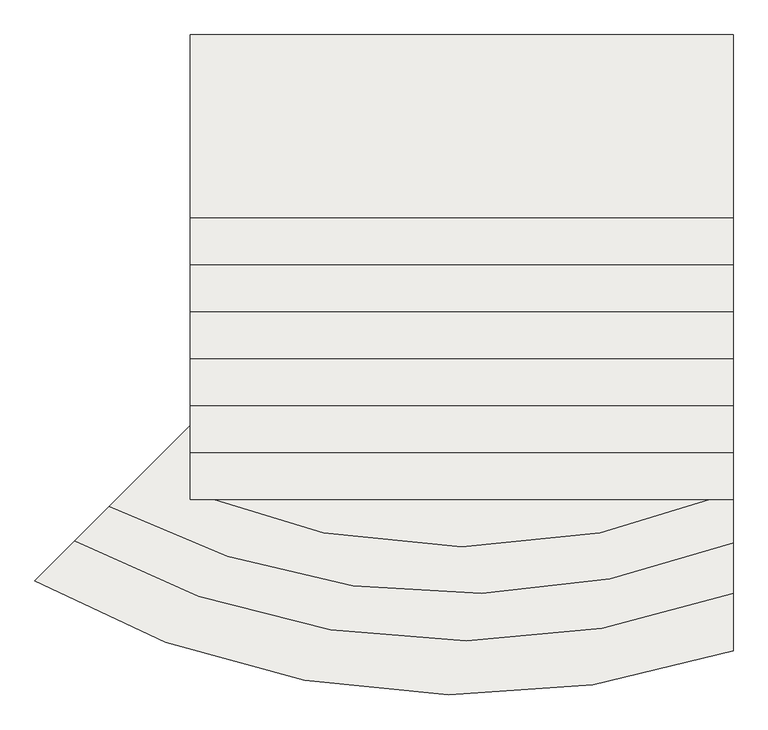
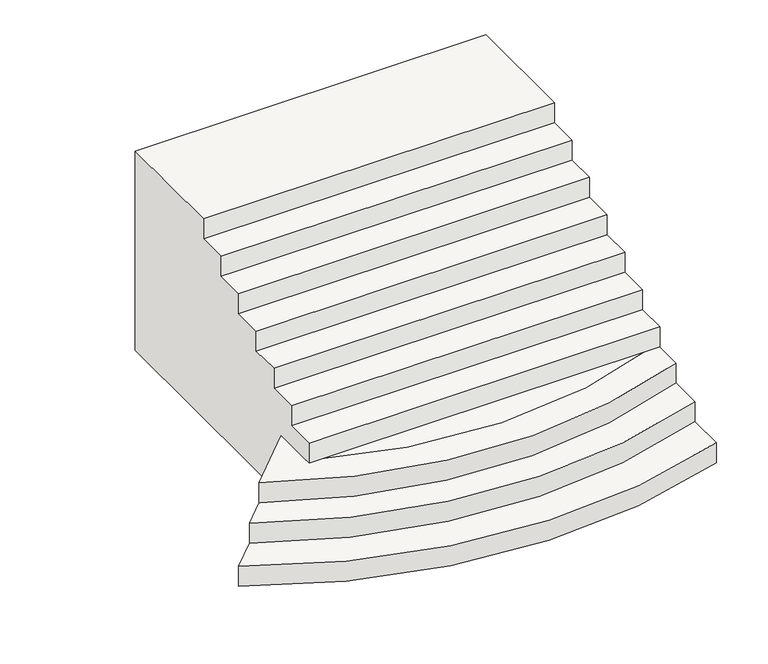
"""IFC4 building model written with IfcOpenShell, lengths in millimetres: slab geometry, ENT階段1 : ENT階段."""

from ifc_helpers import new_model, si_unit, point, frame, frame_2d, origin, place, context, project, spatial, polyline, circle_curve, trimmed, segment, composite_curve, outline, extrude, source, transform, mapped, element, save


def slab_74460c11(model_context):
    return source(origin(), model_context, "Body", "SweptSolid", [
        extrude(outline(composite_curve([segment(polyline([(9254.3805905, -8197.4608995), (9254.3805905, -8515.0913714)]), True, "CONTINUOUS"), segment(trimmed(circle_curve(frame_2d((7754.3805905, -4041.2964422)), 4718.5634539), [point((9254.3805905, -8515.0913714))], [point((5395.9418687, -8128.178856))], False, "CARTESIAN"), True, "CONTINUOUS"), segment(polyline([(5395.9418687, -8128.178856), (5616.1081236, -7908.0126011)]), True, "CONTINUOUS"), segment(trimmed(circle_curve(frame_2d((7754.3805905, -4041.2964422)), 4418.5634539), [point((5616.1081236, -7908.0126011))], [point((9254.3805905, -8197.4608995))], True, "CARTESIAN"), True, "CONTINUOUS")], self_intersect=False)), frame((0.0, 0.0, -800.0), z_axis=(0.0, 0.0, 1.0), x_axis=(1.0, 0.0, 0.0)), (0.0, 0.0, 1.0), 180.0),
        extrude(outline(composite_curve([segment(polyline([(9254.3805905, -7919.9108856), (9254.3805905, -8197.4608995)]), True, "CONTINUOUS"), segment(trimmed(circle_curve(frame_2d((7754.3805905, -4041.2964422)), 4418.5634539), [point((9254.3805905, -8197.4608995))], [point((5616.1081236, -7908.0126011))], False, "CARTESIAN"), True, "CONTINUOUS"), segment(polyline([(5616.1081236, -7908.0126011), (5807.9182491, -7716.2024755)]), True, "CONTINUOUS"), segment(trimmed(circle_curve(frame_2d((7754.3805905, -4041.2964422)), 4158.5634539), [point((5807.9182491, -7716.2024755))], [point((9254.3805905, -7919.9108856))], True, "CARTESIAN"), True, "CONTINUOUS")], self_intersect=False)), frame((0.0, 0.0, -620.0), z_axis=(0.0, 0.0, 1.0), x_axis=(1.0, 0.0, 0.0)), (0.0, 0.0, 1.0), 180.0),
        extrude(outline(composite_curve([segment(polyline([(9254.3805905, -7639.7401342), (9254.3805905, -7919.9108856)]), True, "CONTINUOUS"), segment(trimmed(circle_curve(frame_2d((7754.3805905, -4041.2964422)), 4158.5634539), [point((9254.3805905, -7919.9108856))], [point((5807.9182491, -7716.2024755))], False, "CARTESIAN"), True, "CONTINUOUS"), segment(polyline([(5807.9182491, -7716.2024755), (6254.3805905, -7269.7401342), (6254.3805905, -7639.7401342)]), True, "CONTINUOUS"), segment(trimmed(circle_curve(frame_2d((7754.3805905, -4041.2964422)), 3898.5634539), [point((6254.3805905, -7639.7401342))], [point((9254.3805905, -7639.7401342))], True, "CARTESIAN"), True, "CONTINUOUS")], self_intersect=False)), frame((0.0, 0.0, -620.0), z_axis=(0.0, 0.0, 1.0), x_axis=(1.0, 0.0, 0.0)), (0.0, 0.0, 1.0), 360.0),
        extrude(outline(composite_curve([segment(trimmed(circle_curve(frame_2d((7754.3805905, -4041.2964422)), 3898.5634539), [point((9254.3805905, -7639.7401342))], [point((6254.3805905, -7639.7401342))], False, "CARTESIAN"), True, "CONTINUOUS"), segment(polyline([(6254.3805905, -7639.7401342), (9254.3805905, -7639.7401342)]), True, "CONTINUOUS")], self_intersect=False)), frame((0.0, 0.0, -800.0), z_axis=(0.0, 0.0, 1.0), x_axis=(1.0, 0.0, 0.0)), (0.0, 0.0, 1.0), 540.0),
        extrude(outline(polyline([(-6119.7401342, 1000.0), (-5109.7401342, 1000.0), (-5109.7401342, -800.0), (-7679.7401342, -800.0), (-7679.7401342, -80.0), (-7419.7401342, -80.0), (-7419.7401342, 100.0), (-7159.7401342, 100.0), (-7159.7401342, 280.0), (-6899.7401342, 280.0), (-6899.7401342, 460.0), (-6639.7401342, 460.0), (-6639.7401342, 640.0), (-6379.7401342, 640.0), (-6379.7401342, 820.0), (-6119.7401342, 820.0), (-6119.7401342, 1000.0)])), frame((6255.3805905, 0.0, 0.0), z_axis=(1.0, 0.0, 0.0), x_axis=(0.0, 1.0, 0.0)), (0.0, 0.0, 1.0), 2999.0),
    ])


if __name__ == "__main__":
    model = new_model("IFC4")
    model_context = context("Model", 3, world=origin())
    ifc_project = project(units=[si_unit("LENGTHUNIT", "METRE", prefix="MILLI")], contexts=[model_context])
    site = spatial("IfcSite", under=ifc_project)
    building = spatial("IfcBuilding", under=site)
    placement = place(None, origin())
    slab_shape = slab_74460c11(model_context)
    element("IfcSlab", 1, ObjectType="ENT階段1 : ENT階段", at=placement, inside=building, context=model_context, shape_type="MappedRepresentation", body=[
        mapped(slab_shape, transform((0.0, 0.0, 0.0), x_axis=(1.0, 0.0, 0.0), y_axis=(0.0, 1.0, 0.0), z_axis=(0.0, 0.0, 1.0))),
    ])
    save(model, "model.ifc")
